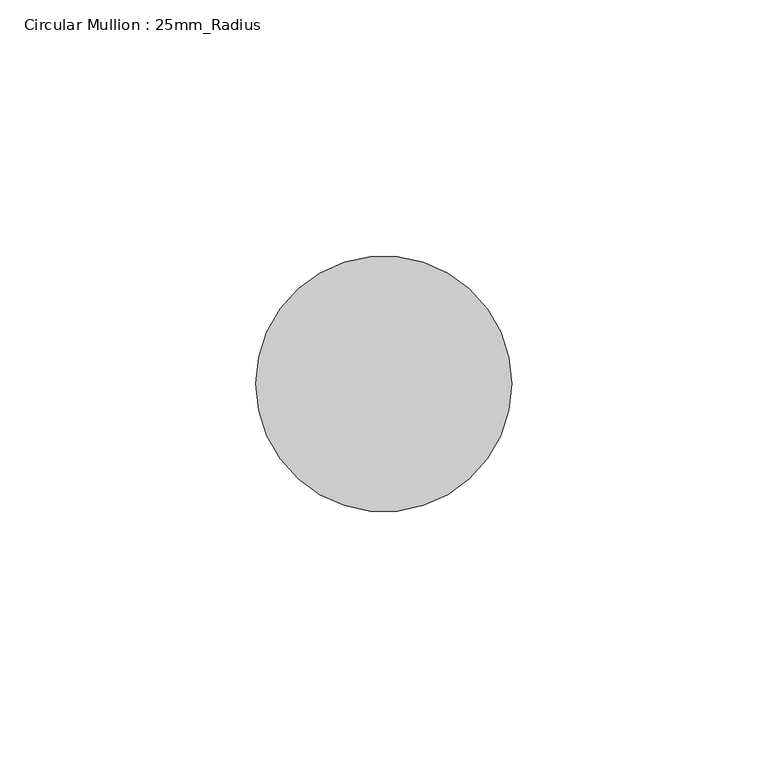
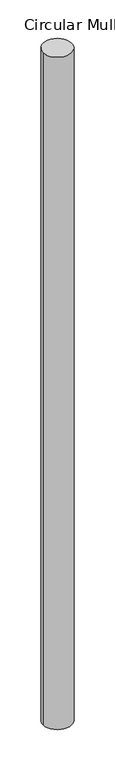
"""IFC4 building model written with IfcOpenShell, lengths in millimetres: member geometry, Circular Mullion : 25mm_Radius."""

from ifc_helpers import new_model, si_unit, point, frame, frame_2d, origin, place, context, project, spatial, circle_curve, trimmed, segment, composite_curve, outline, extrude, source, transform, mapped, element, save


def circular_mullion_25mm_radius_5f481add(model_context):
    return source(origin(), model_context, "Body", "SweptSolid", [
        extrude(outline(composite_curve([segment(trimmed(circle_curve(frame_2d((-25.0, 0.0)), 25.0), [point((0.0, 0.0))], [point((-50.0, 0.0))], False, "CARTESIAN"), True, "CONTINUOUS"), segment(trimmed(circle_curve(frame_2d((-25.0, 0.0)), 25.0), [point((-50.0, 0.0))], [point((0.0, 0.0))], False, "CARTESIAN"), True, "CONTINUOUS")], self_intersect=False)), frame((0.0, 0.0, -1236.0236814), z_axis=(0.0, 0.0, 1.0), x_axis=(1.0, 0.0, 0.0)), (0.0, 0.0, 1.0), 1236.0236814),
    ])


if __name__ == "__main__":
    model = new_model("IFC4")
    model_context = context("Model", 3, world=origin())
    ifc_project = project(units=[si_unit("LENGTHUNIT", "METRE", prefix="MILLI")], contexts=[model_context])
    site = spatial("IfcSite", under=ifc_project)
    building = spatial("IfcBuilding", under=site)
    placement = place(None, origin())
    circular_mullion_25mm_radius_shape = circular_mullion_25mm_radius_5f481add(model_context)
    element("IfcMember", 1, ObjectType="Circular Mullion : 25mm_Radius", at=placement, inside=building, context=model_context, shape_type="MappedRepresentation", body=[
        mapped(circular_mullion_25mm_radius_shape, transform((0.0, 0.0, 0.0), x_axis=(1.0, 0.0, 0.0), y_axis=(0.0, 1.0, 0.0), z_axis=(0.0, 0.0, 1.0))),
    ])
    save(model, "model.ifc")
